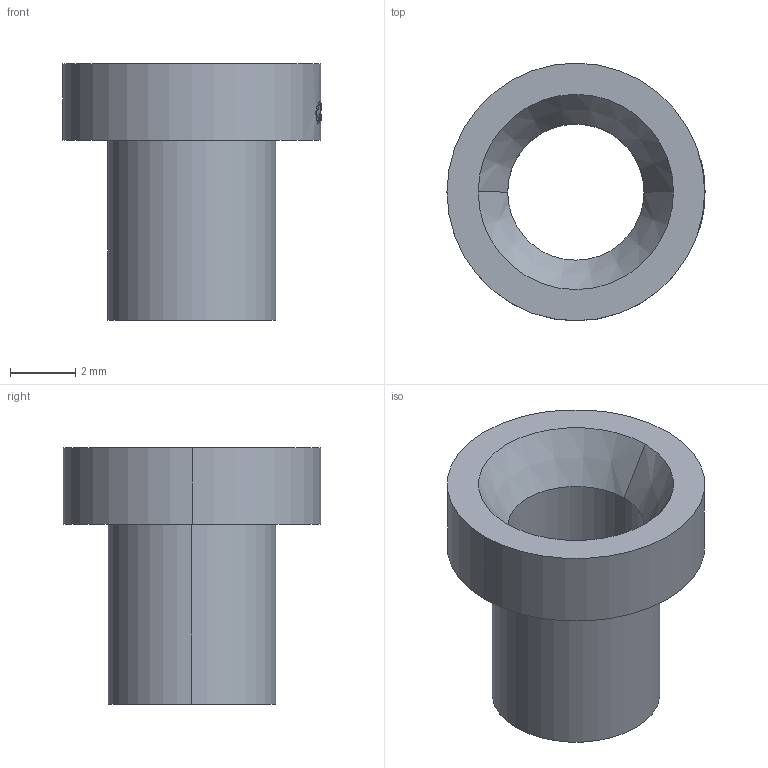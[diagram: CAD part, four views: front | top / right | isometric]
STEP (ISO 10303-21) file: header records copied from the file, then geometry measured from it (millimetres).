
FILE_DESCRIPTION (( 'STEP AP214' ), '1' );
FILE_NAME ('SMD_BD7.9-L7.9-W7.9-D5.2.step', '2022-07-26T09:04:30', ( '' ), ( '' ), 'SwSTEP 2.0', 'SolidWorks 2020', '' );
FILE_SCHEMA (( 'AUTOMOTIVE_DESIGN' ));
Length unit declared in the file: millimetre
Products named in the file (1): SMD_BD7.9-L7.9-W7.9-D5.2
Bounding box: 7.93 x 7.92 x 7.89 mm (x, y, z)
Volume: 112.4 mm3; surface area: 317.4 mm2
Topology: 1 solids, 1 shells, 293 faces, 796 edges, 530 vertices
Faces by surface type: bspline 135, plane 131, cylinder 25, cone 2
Entity records: 13297 total; most frequent: CARTESIAN_POINT 4378, ORIENTED_EDGE 1592, DIRECTION 809, EDGE_CURVE 796, VERTEX_POINT 530, B_SPLINE_CURVE_WITH_KNOTS 419, EDGE_LOOP 320, FACE_OUTER_BOUND 293
